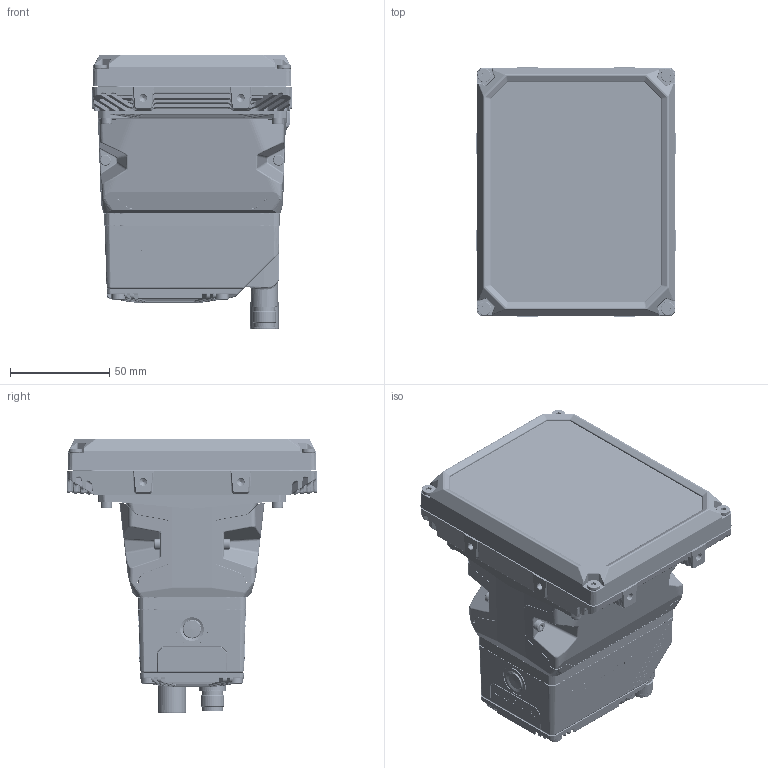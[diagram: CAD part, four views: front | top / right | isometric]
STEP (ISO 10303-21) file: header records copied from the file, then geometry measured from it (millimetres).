
FILE_DESCRIPTION(/* description */ (''),/* implementation_level */ '2;1');
FILE_NAME(/* name */ 'AP035888_00-P2X C-Mount 36 led 90_ landscape.stp',/* time_stamp */ '2022-03-16T16:21:27+01:00',/* author */ (''),/* organization */ (''),/* preprocessor_version */ 'ST-DEVELOPER v16.7',/* originating_system */ 'SIEMENS PLM Software NX 1946',/* authorisation */ '');
FILE_SCHEMA (('AUTOMOTIVE_DESIGN { 1 0 10303 214 3 1 1 1 }'));
Products named in the file (1): FGutB01403CDtyoe
Bounding box: 101 x 126 x 138.21 mm (x, y, z)
Volume: 607070.3 mm3; surface area: 117990.5 mm2
Topology: 1 solids, 25 shells, 7415 faces, 17779 edges, 10375 vertices
Faces by surface type: bspline 2370, cylinder 2254, plane 2072, cone 264, torus 243, sphere 128, extrusion 84
Full cylindrical faces by diameter (mm): 0.6 x7, 2.3 x4, 3.2 x5, 3.3 x17, 3.5 x5, 5.5 x8, 6.2 x4, 6.9 x4, 7 x3, 9.5 x2, 10.5 x1, 10.7 x1, 10.8 x1, 11.15 x1, 11.85 x1, 12.2 x1, 13.5 x2, 14 x1, 15 x1, 16 x1
Entity records: 286090 total; most frequent: CARTESIAN_POINT 106607, ORIENTED_EDGE 34528, DIRECTION 30175, EDGE_CURVE 17264, AXIS2_PLACEMENT_3D 11740, VERTEX_POINT 10288, EDGE_LOOP 7825, ADVANCED_FACE 7413
